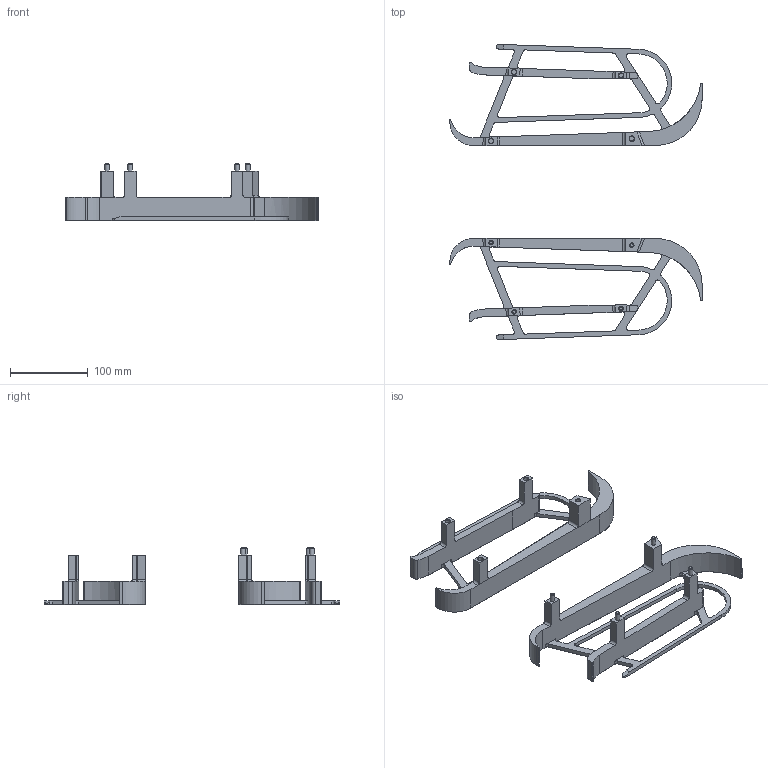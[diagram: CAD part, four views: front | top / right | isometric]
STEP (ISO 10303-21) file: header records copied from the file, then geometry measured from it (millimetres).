
FILE_DESCRIPTION(/* description */ ('AP-214 File'),/* implementation_level */ '2;1');
FILE_NAME(/* name */ 'Dispenser full',/* time_stamp */ 'Thu Aug 12 21:46:39 2021',/* author */ (''),/* organization */ (''),/* preprocessor_version */ 'Autodesk STEP V1',/* originating_system */ 'Autodesk Manufacturing Data Exchange Utility2019.0.0.900002',/* authorisation */ '');
FILE_SCHEMA (('AUTOMOTIVE_DESIGN'));
Bounding box: 325.53 x 380.98 x 74 mm (x, y, z)
Volume: 535978.6 mm3; surface area: 151436.9 mm2
Topology: 2 solids, 2 shells, 346 faces, 886 edges, 546 vertices
Faces by surface type: plane 158, cylinder 104, cone 84
Full cylindrical faces by diameter (mm): 5.8 x4, 6 x4
Entity records: 10707 total; most frequent: CARTESIAN_POINT 1837, DIRECTION 1832, ORIENTED_EDGE 1736, EDGE_CURVE 868, AXIS2_PLACEMENT_3D 643, LINE 546, VECTOR 546, VERTEX_POINT 544
